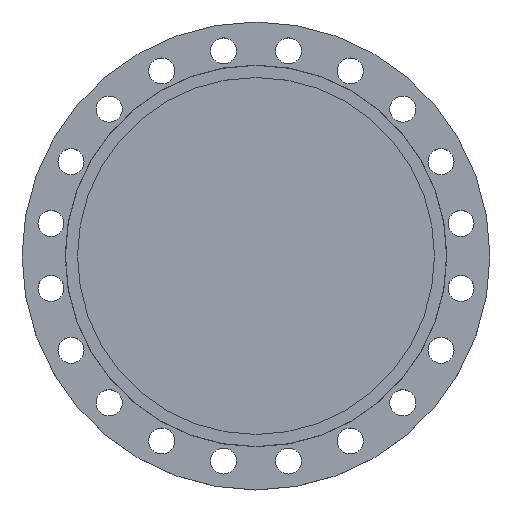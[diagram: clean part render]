
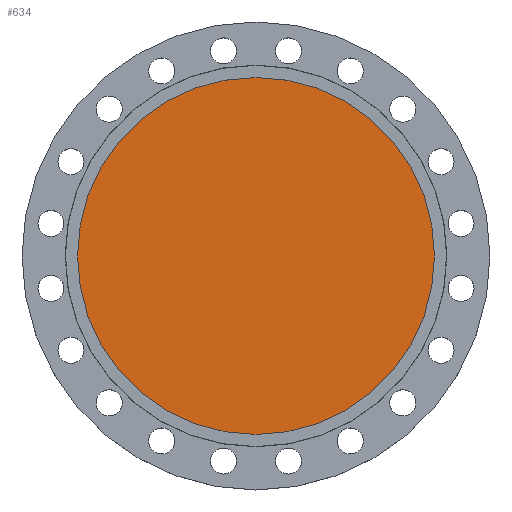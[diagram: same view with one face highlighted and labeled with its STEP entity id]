
A CAD part, top view. The second image highlights one B-rep face of the part: STEP entity #634.
In plain terms, the highlighted planar face has unit normal (0, 0, 1).
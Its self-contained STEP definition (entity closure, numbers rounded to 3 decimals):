
#30 = CARTESIAN_POINT ( 'NONE',  ( 288., 0., -5. ) ) ;
#63 = AXIS2_PLACEMENT_3D ( 'NONE', #755, #753, #751 ) ;
#318 = AXIS2_PLACEMENT_3D ( 'NONE', #550, #549, #546 ) ;
#517 = CARTESIAN_POINT ( 'NONE',  ( -288., 0., -5. ) ) ;
#522 = CARTESIAN_POINT ( 'NONE',  ( 0., 0., -5. ) ) ;
#546 = DIRECTION ( 'NONE',  ( -1., 0., 0. ) ) ;
#549 = DIRECTION ( 'NONE',  ( 0., 0., -1. ) ) ;
#550 = CARTESIAN_POINT ( 'NONE',  ( 0., 0., -5. ) ) ;
#634 = ADVANCED_FACE ( 'NONE', ( #759 ), #757, .T. ) ;
#751 = DIRECTION ( 'NONE',  ( 1., 0., 0. ) ) ;
#753 = DIRECTION ( 'NONE',  ( 0., 0., 1. ) ) ;
#755 = CARTESIAN_POINT ( 'NONE',  ( 288., 0., -5. ) ) ;
#757 = PLANE ( 'NONE',  #63 ) ;
#759 = FACE_OUTER_BOUND ( 'NONE', #1163, .T. ) ;
#1064 = EDGE_CURVE ( 'NONE', #1109, #1675, #1337, .T. ) ;
#1109 = VERTEX_POINT ( 'NONE', #517 ) ;
#1163 = EDGE_LOOP ( 'NONE', ( #1279, #1282 ) ) ;
#1279 = ORIENTED_EDGE ( 'NONE', *, *, #1064, .F. ) ;
#1282 = ORIENTED_EDGE ( 'NONE', *, *, #1777, .F. ) ;
#1298 = DIRECTION ( 'NONE',  ( 0., 0., -1. ) ) ;
#1337 = CIRCLE ( 'NONE', #318, 288. ) ;
#1523 = CIRCLE ( 'NONE', #1526, 288. ) ;
#1526 = AXIS2_PLACEMENT_3D ( 'NONE', #522, #1298, #1630 ) ;
#1630 = DIRECTION ( 'NONE',  ( -1., 0., 0. ) ) ;
#1675 = VERTEX_POINT ( 'NONE', #30 ) ;
#1777 = EDGE_CURVE ( 'NONE', #1675, #1109, #1523, .T. ) ;
